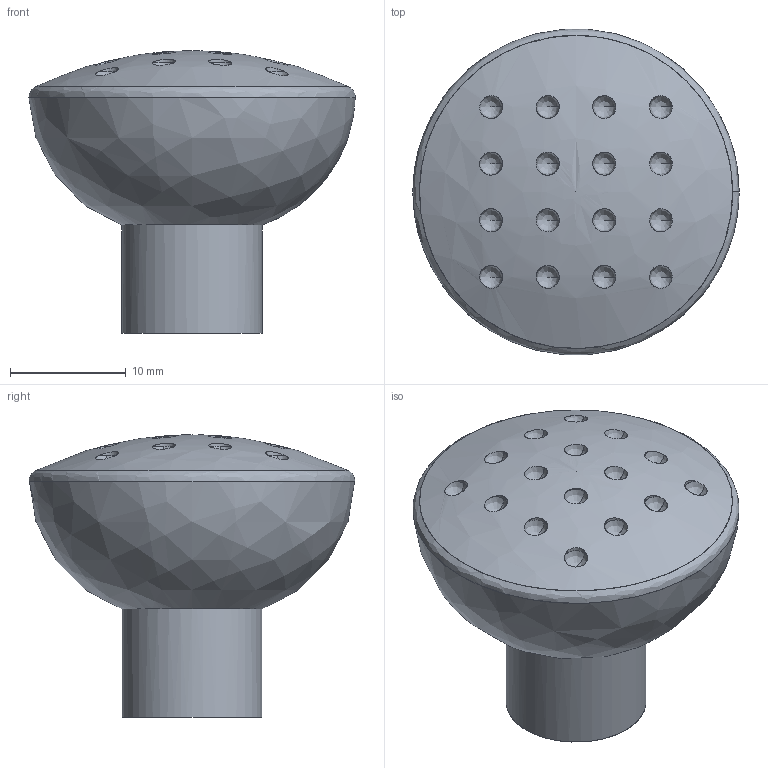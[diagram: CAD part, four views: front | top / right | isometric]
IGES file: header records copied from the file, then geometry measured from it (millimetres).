
Start section: C
Global section: file name: 0873-28.igs; native system: By Siemens PLM Incorporated; preprocessor: XPlus GENERIC/IGES 16.0.42; author: Author; organization: Title; date: 20231129.093528; units: millimetre
Bounding box: 28.19 x 28.1 x 24.4 mm (x, y, z)
Surface area: 2408 mm2 (no closed solid volume)
Topology: 0 solids, 0 shells, 47 faces, 277 edges, 260 vertices
Faces by surface type: bspline 47
